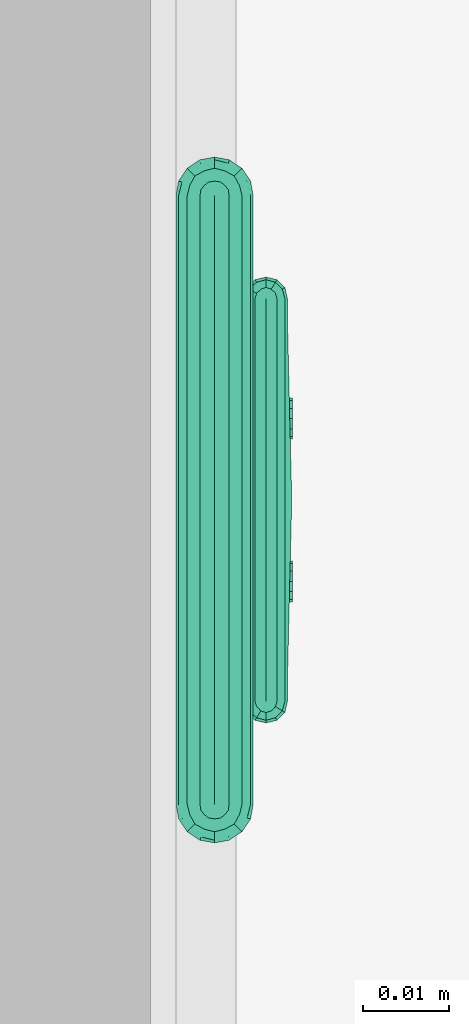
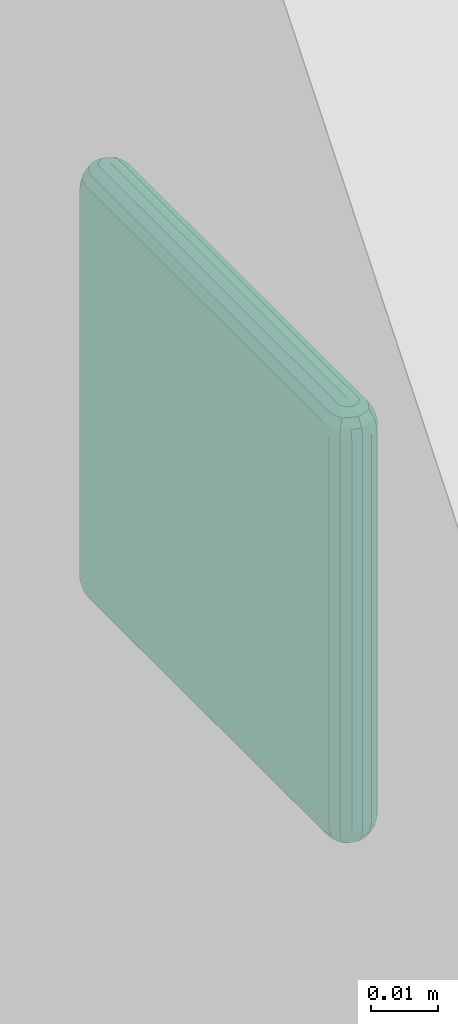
# One storey, part 7 of 11: 1 outlet.
"""IFC4 building model written with IfcOpenShell, lengths in millimetres."""

from ifc_helpers import new_model, si_unit, frame, origin_with_axes, place, context, subcontext, project, spatial, triangles, material, constituent, constituent_set, element, save


model = new_model("IFC4")

# Units and contexts
model_context = context("Model", 3, precision=0.01, world=origin_with_axes())
body_context = subcontext(model_context, "Body", "Model", "MODEL_VIEW")
ifc_project = project(units=[si_unit("LENGTHUNIT", "METRE", prefix="MILLI"), si_unit("AREAUNIT", "SQUARE_METRE"), si_unit("VOLUMEUNIT", "CUBIC_METRE"), si_unit("PLANEANGLEUNIT", "RADIAN")], contexts=[model_context])

# Site, building, storey
site_placement = place(None, origin_with_axes())
site = spatial("IfcSite", under=ifc_project, at=site_placement, Name="Участок", CompositionType="ELEMENT")
building_placement = place(site_placement, origin_with_axes())
building = spatial("IfcBuilding", under=site, at=building_placement, Name="Жилой дом", CompositionType="ELEMENT")
storey_placement = place(building_placement, origin_with_axes())
storey = spatial("IfcBuildingStorey", under=building, at=storey_placement, Name="Квартира ±0,000", CompositionType="ELEMENT", Elevation=0.0)

# Outlet
ifc_material_1 = material(Name="ЭУИ белые матовые (по кадру)")
ifc_constituent_1 = constituent(ifc_material_1)
ifc_material_2 = material(Name="Металл чёрный матовый RAL 9005")
ifc_constituent_2 = constituent(ifc_material_2)
ifc_constituent_set = constituent_set(constituents=[ifc_constituent_1, ifc_constituent_2], Name="ЭУИ белые матовые (по кадру) + Металл чёрный матовый RAL 9005")
outlet_placement = place(storey_placement, frame((3.0, 1985.0, 600.0)))
element("IfcOutlet", 1, at=outlet_placement, inside=storey, material=ifc_constituent_set, Name="Силовой вывод 32 А +600", PredefinedType="POWEROUTLET", context=body_context, shape_type="Tessellation", body=[
    triangles([(4.5, 75.5, 0.0), (4.5, 75.5, 0.0), (4.5, 75.5, 0.0), (4.5, 75.5, 0.0), (4.5, 75.5, 0.0), (4.5, 4.5, 0.0), (4.5, 4.5, 0.0), (4.5, 4.5, 0.0), (4.5, 4.5, 0.0), (4.5, 4.5, 0.0), (4.5, 4.5, 0.0), (4.5, 4.5, 0.0), (4.5, 4.5, 0.0), (4.5, 4.5, 0.0), (4.5, 4.5, 0.0), (4.5, 75.5, 0.0), (4.5, 75.5, 0.0), (4.5, 75.5, 0.0), (4.5, 75.5, 0.0), (4.5, 75.5, 0.0), (4.5, 77.2, 0.3), (5.2, 77.1, 0.3), (5.7, 76.7, 0.3), (6.1, 76.2, 0.3), (6.2, 75.5, 0.3), (6.2, 4.5, 0.3), (6.1, 3.8, 0.3), (5.7, 3.3, 0.3), (5.2, 2.9, 0.3), (4.5, 2.8, 0.3), (4.5, 2.8, 0.3), (3.8, 2.9, 0.3), (3.3, 3.3, 0.3), (2.9, 3.8, 0.3), (2.8, 4.5, 0.3), (2.8, 75.5, 0.3), (2.9, 76.2, 0.3), (3.3, 76.7, 0.3), (3.8, 77.1, 0.3), (4.5, 77.2, 0.3), (4.5, 78.7, 1.3), (5.7, 78.4, 1.3), (6.8, 77.8, 1.3), (7.4, 76.7, 1.3), (7.7, 75.5, 1.3), (7.7, 4.5, 1.3), (7.4, 3.3, 1.3), (6.8, 2.2, 1.3), (5.7, 1.6, 1.3), (4.5, 1.3, 1.3), (4.5, 1.3, 1.3), (3.3, 1.6, 1.3), (2.2, 2.2, 1.3), (1.6, 3.3, 1.3), (1.3, 4.5, 1.3), (1.3, 75.5, 1.3), (1.6, 76.7, 1.3), (2.2, 77.8, 1.3), (3.3, 78.4, 1.3), (4.5, 78.7, 1.3), (4.5, 79.7, 2.8), (6.1, 79.3, 2.8), (7.4, 78.4, 2.8), (8.3, 77.1, 2.8), (8.7, 75.5, 2.8), (8.7, 4.5, 2.8), (8.3, 2.9, 2.8), (7.4, 1.6, 2.8), (6.1, 0.7, 2.8), (4.5, 0.3, 2.8), (4.5, 0.3, 2.8), (2.9, 0.7, 2.8), (1.6, 1.6, 2.8), (0.7, 2.9, 2.8), (0.3, 4.5, 2.8), (0.3, 75.5, 2.8), (0.7, 77.1, 2.8), (1.6, 78.4, 2.8), (2.9, 79.3, 2.8), (4.5, 79.7, 2.8), (4.5, 80.0, 4.5), (6.2, 79.7, 4.5), (7.7, 78.7, 4.5), (8.7, 77.2, 4.5), (9.0, 75.5, 4.5), (9.0, 4.5, 4.5), (8.7, 2.8, 4.5), (7.7, 1.3, 4.5), (6.2, 0.3, 4.5), (4.5, 0.0, 4.5), (4.5, 0.0, 4.5), (2.8, 0.3, 4.5), (1.3, 1.3, 4.5), (0.3, 2.8, 4.5), (0.0, 4.5, 4.5), (0.0, 75.5, 4.5), (0.3, 77.2, 4.5), (1.3, 78.7, 4.5), (2.8, 79.7, 4.5), (4.5, 80.0, 4.5), (4.5, 80.0, 75.5), (6.2, 79.7, 75.5), (7.7, 78.7, 75.5), (8.7, 77.2, 75.5), (9.0, 75.5, 75.5), (9.0, 4.5, 75.5), (8.7, 2.8, 75.5), (7.7, 1.3, 75.5), (6.2, 0.3, 75.5), (4.5, 0.0, 75.5), (4.5, 0.0, 75.5), (2.8, 0.3, 75.5), (1.3, 1.3, 75.5), (0.3, 2.8, 75.5), (0.0, 4.5, 75.5), (0.0, 75.5, 75.5), (0.3, 77.2, 75.5), (1.3, 78.7, 75.5), (2.8, 79.7, 75.5), (4.5, 80.0, 75.5), (4.5, 79.7, 77.2), (6.1, 79.3, 77.2), (7.4, 78.4, 77.2), (8.3, 77.1, 77.2), (8.7, 75.5, 77.2), (8.7, 4.5, 77.2), (8.3, 2.9, 77.2), (7.4, 1.6, 77.2), (6.1, 0.7, 77.2), (4.5, 0.3, 77.2), (4.5, 0.3, 77.2), (2.9, 0.7, 77.2), (1.6, 1.6, 77.2), (0.7, 2.9, 77.2), (0.3, 4.5, 77.2), (0.3, 75.5, 77.2), (0.7, 77.1, 77.2), (1.6, 78.4, 77.2), (2.9, 79.3, 77.2), (4.5, 79.7, 77.2), (4.5, 78.7, 78.7), (5.7, 78.4, 78.7), (6.8, 77.8, 78.7), (7.4, 76.7, 78.7), (7.7, 75.5, 78.7), (7.7, 4.5, 78.7), (7.4, 3.3, 78.7), (6.8, 2.2, 78.7), (5.7, 1.6, 78.7), (4.5, 1.3, 78.7), (4.5, 1.3, 78.7), (3.3, 1.6, 78.7), (2.2, 2.2, 78.7), (1.6, 3.3, 78.7), (1.3, 4.5, 78.7), (1.3, 75.5, 78.7), (1.6, 76.7, 78.7), (2.2, 77.8, 78.7), (3.3, 78.4, 78.7), (4.5, 78.7, 78.7), (4.5, 77.2, 79.7), (5.2, 77.1, 79.7), (5.7, 76.7, 79.7), (6.1, 76.2, 79.7), (6.2, 75.5, 79.7), (6.2, 4.5, 79.7), (6.1, 3.8, 79.7), (5.7, 3.3, 79.7), (5.2, 2.9, 79.7), (4.5, 2.8, 79.7), (4.5, 2.8, 79.7), (3.8, 2.9, 79.7), (3.3, 3.3, 79.7), (2.9, 3.8, 79.7), (2.8, 4.5, 79.7), (2.8, 75.5, 79.7), (2.9, 76.2, 79.7), (3.3, 76.7, 79.7), (3.8, 77.1, 79.7), (4.5, 77.2, 79.7), (4.5, 75.5, 80.0), (4.5, 75.5, 80.0), (4.5, 75.5, 80.0), (4.5, 75.5, 80.0), (4.5, 75.5, 80.0), (4.5, 4.5, 80.0), (4.5, 4.5, 80.0), (4.5, 4.5, 80.0), (4.5, 4.5, 80.0), (4.5, 4.5, 80.0), (4.5, 4.5, 80.0), (4.5, 4.5, 80.0), (4.5, 4.5, 80.0), (4.5, 4.5, 80.0), (4.5, 4.5, 80.0), (4.5, 75.5, 80.0), (4.5, 75.5, 80.0), (4.5, 75.5, 80.0), (4.5, 75.5, 80.0), (4.5, 75.5, 80.0), (10.5, 63.5, 14.0), (10.5, 63.5, 14.0), (10.5, 63.5, 14.0), (10.5, 63.5, 14.0), (10.5, 16.5, 14.0), (10.5, 16.5, 14.0), (10.5, 16.5, 14.0), (10.5, 16.5, 14.0), (10.5, 16.5, 14.0), (10.5, 16.5, 14.0), (10.5, 16.5, 14.0), (10.5, 16.5, 14.0), (10.5, 63.5, 14.0), (10.5, 63.5, 14.0), (10.5, 63.5, 14.0), (10.5, 63.5, 14.0), (10.5, 64.8, 14.3), (11.1, 64.6, 14.3), (11.6, 64.1, 14.3), (11.8, 63.5, 14.3), (11.8, 16.5, 14.3), (11.6, 15.9, 14.3), (11.1, 15.4, 14.3), (10.5, 15.2, 14.3), (10.5, 15.2, 14.3), (9.9, 15.4, 14.3), (9.4, 15.9, 14.3), (9.2, 16.5, 14.3), (9.2, 63.5, 14.3), (9.4, 64.1, 14.3), (9.9, 64.6, 14.3), (10.5, 64.8, 14.3), (10.5, 65.7, 15.2), (11.6, 65.4, 15.2), (12.4, 64.6, 15.2), (12.7, 63.5, 15.2), (12.7, 16.5, 15.2), (12.4, 15.4, 15.2), (11.6, 14.6, 15.2), (10.5, 14.3, 15.2), (10.5, 14.3, 15.2), (9.4, 14.6, 15.2), (8.6, 15.4, 15.2), (8.3, 16.5, 15.2), (8.3, 63.5, 15.2), (8.6, 64.6, 15.2), (9.4, 65.4, 15.2), (10.5, 65.7, 15.2), (10.5, 66.0, 16.5), (11.8, 65.7, 16.5), (12.7, 64.8, 16.5), (13.0, 63.5, 16.5), (13.0, 16.5, 16.5), (12.7, 15.2, 16.5), (11.8, 14.3, 16.5), (10.5, 14.0, 16.5), (10.5, 14.0, 16.5), (9.2, 14.3, 16.5), (8.3, 15.2, 16.5), (8.0, 16.5, 16.5), (8.0, 63.5, 16.5), (8.3, 64.8, 16.5), (9.2, 65.7, 16.5), (10.5, 66.0, 16.5), (10.5, 66.0, 63.5), (11.8, 65.7, 63.5), (12.7, 64.8, 63.5), (13.0, 63.5, 63.5), (13.0, 16.5, 63.5), (12.7, 15.2, 63.5), (11.8, 14.3, 63.5), (10.5, 14.0, 63.5), (10.5, 14.0, 63.5), (9.2, 14.3, 63.5), (8.3, 15.2, 63.5), (8.0, 16.5, 63.5), (8.0, 63.5, 63.5), (8.3, 64.8, 63.5), (9.2, 65.7, 63.5), (10.5, 66.0, 63.5), (10.5, 65.7, 64.8), (11.6, 65.4, 64.8), (12.4, 64.6, 64.8), (12.7, 63.5, 64.8), (12.7, 16.5, 64.8), (12.4, 15.4, 64.8), (11.6, 14.6, 64.8), (10.5, 14.3, 64.8), (10.5, 14.3, 64.8), (9.4, 14.6, 64.8), (8.6, 15.4, 64.8), (8.3, 16.5, 64.8), (8.3, 63.5, 64.8), (8.6, 64.6, 64.8), (9.4, 65.4, 64.8), (10.5, 65.7, 64.8), (10.5, 64.8, 65.7), (11.1, 64.6, 65.7), (11.6, 64.1, 65.7), (11.8, 63.5, 65.7), (11.8, 16.5, 65.7), (11.6, 15.9, 65.7), (11.1, 15.4, 65.7), (10.5, 15.2, 65.7), (10.5, 15.2, 65.7), (9.9, 15.4, 65.7), (9.4, 15.9, 65.7), (9.2, 16.5, 65.7), (9.2, 63.5, 65.7), (9.4, 64.1, 65.7), (9.9, 64.6, 65.7), (10.5, 64.8, 65.7), (10.5, 63.5, 66.0), (10.5, 63.5, 66.0), (10.5, 63.5, 66.0), (10.5, 63.5, 66.0), (10.5, 16.5, 66.0), (10.5, 16.5, 66.0), (10.5, 16.5, 66.0), (10.5, 16.5, 66.0), (10.5, 16.5, 66.0), (10.5, 16.5, 66.0), (10.5, 16.5, 66.0), (10.5, 16.5, 66.0), (10.5, 63.5, 66.0), (10.5, 63.5, 66.0), (10.5, 63.5, 66.0), (10.5, 63.5, 66.0)], [[1, 2, 22], [1, 22, 21], [2, 3, 23], [2, 23, 22], [3, 4, 24], [3, 24, 23], [4, 5, 25], [4, 25, 24], [5, 6, 26], [5, 26, 25], [6, 7, 27], [6, 27, 26], [7, 8, 28], [7, 28, 27], [8, 9, 29], [8, 29, 28], [9, 10, 30], [9, 30, 29], [10, 11, 31], [10, 31, 30], [11, 12, 32], [11, 32, 31], [12, 13, 33], [12, 33, 32], [13, 14, 34], [13, 34, 33], [14, 15, 35], [14, 35, 34], [15, 16, 36], [15, 36, 35], [16, 17, 37], [16, 37, 36], [17, 18, 38], [17, 38, 37], [18, 19, 39], [18, 39, 38], [19, 20, 40], [19, 40, 39], [20, 1, 21], [20, 21, 40], [21, 22, 42], [21, 42, 41], [22, 23, 43], [22, 43, 42], [23, 24, 44], [23, 44, 43], [24, 25, 45], [24, 45, 44], [25, 26, 46], [25, 46, 45], [26, 27, 47], [26, 47, 46], [27, 28, 48], [27, 48, 47], [28, 29, 49], [28, 49, 48], [29, 30, 50], [29, 50, 49], [30, 31, 51], [30, 51, 50], [31, 32, 52], [31, 52, 51], [32, 33, 53], [32, 53, 52], [33, 34, 54], [33, 54, 53], [34, 35, 55], [34, 55, 54], [35, 36, 56], [35, 56, 55], [36, 37, 57], [36, 57, 56], [37, 38, 58], [37, 58, 57], [38, 39, 59], [38, 59, 58], [39, 40, 60], [39, 60, 59], [40, 21, 41], [40, 41, 60], [41, 42, 62], [41, 62, 61], [42, 43, 63], [42, 63, 62], [43, 44, 64], [43, 64, 63], [44, 45, 65], [44, 65, 64], [45, 46, 66], [45, 66, 65], [46, 47, 67], [46, 67, 66], [47, 48, 68], [47, 68, 67], [48, 49, 69], [48, 69, 68], [49, 50, 70], [49, 70, 69], [50, 51, 71], [50, 71, 70], [51, 52, 72], [51, 72, 71], [52, 53, 73], [52, 73, 72], [53, 54, 74], [53, 74, 73], [54, 55, 75], [54, 75, 74], [55, 56, 76], [55, 76, 75], [56, 57, 77], [56, 77, 76], [57, 58, 78], [57, 78, 77], [58, 59, 79], [58, 79, 78], [59, 60, 80], [59, 80, 79], [60, 41, 61], [60, 61, 80], [61, 62, 82], [61, 82, 81], [62, 63, 83], [62, 83, 82], [63, 64, 84], [63, 84, 83], [64, 65, 85], [64, 85, 84], [65, 66, 86], [65, 86, 85], [66, 67, 87], [66, 87, 86], [67, 68, 88], [67, 88, 87], [68, 69, 89], [68, 89, 88], [69, 70, 90], [69, 90, 89], [70, 71, 91], [70, 91, 90], [71, 72, 92], [71, 92, 91], [72, 73, 93], [72, 93, 92], [73, 74, 94], [73, 94, 93], [74, 75, 95], [74, 95, 94], [75, 76, 96], [75, 96, 95], [76, 77, 97], [76, 97, 96], [77, 78, 98], [77, 98, 97], [78, 79, 99], [78, 99, 98], [79, 80, 100], [79, 100, 99], [80, 61, 81], [80, 81, 100], [81, 82, 102], [81, 102, 101], [82, 83, 103], [82, 103, 102], [83, 84, 104], [83, 104, 103], [84, 85, 105], [84, 105, 104], [85, 86, 106], [85, 106, 105], [86, 87, 107], [86, 107, 106], [87, 88, 108], [87, 108, 107], [88, 89, 109], [88, 109, 108], [89, 90, 110], [89, 110, 109], [90, 91, 111], [90, 111, 110], [91, 92, 112], [91, 112, 111], [92, 93, 113], [92, 113, 112], [93, 94, 114], [93, 114, 113], [94, 95, 115], [94, 115, 114], [95, 96, 116], [95, 116, 115], [96, 97, 117], [96, 117, 116], [97, 98, 118], [97, 118, 117], [98, 99, 119], [98, 119, 118], [99, 100, 120], [99, 120, 119], [100, 81, 101], [100, 101, 120], [101, 102, 122], [101, 122, 121], [102, 103, 123], [102, 123, 122], [103, 104, 124], [103, 124, 123], [104, 105, 125], [104, 125, 124], [105, 106, 126], [105, 126, 125], [106, 107, 127], [106, 127, 126], [107, 108, 128], [107, 128, 127], [108, 109, 129], [108, 129, 128], [109, 110, 130], [109, 130, 129], [110, 111, 131], [110, 131, 130], [111, 112, 132], [111, 132, 131], [112, 113, 133], [112, 133, 132], [113, 114, 134], [113, 134, 133], [114, 115, 135], [114, 135, 134], [115, 116, 136], [115, 136, 135], [116, 117, 137], [116, 137, 136], [117, 118, 138], [117, 138, 137], [118, 119, 139], [118, 139, 138], [119, 120, 140], [119, 140, 139], [120, 101, 121], [120, 121, 140], [121, 122, 142], [121, 142, 141], [122, 123, 143], [122, 143, 142], [123, 124, 144], [123, 144, 143], [124, 125, 145], [124, 145, 144], [125, 126, 146], [125, 146, 145], [126, 127, 147], [126, 147, 146], [127, 128, 148], [127, 148, 147], [128, 129, 149], [128, 149, 148], [129, 130, 150], [129, 150, 149], [130, 131, 151], [130, 151, 150], [131, 132, 152], [131, 152, 151], [132, 133, 153], [132, 153, 152], [133, 134, 154], [133, 154, 153], [134, 135, 155], [134, 155, 154], [135, 136, 156], [135, 156, 155], [136, 137, 157], [136, 157, 156], [137, 138, 158], [137, 158, 157], [138, 139, 159], [138, 159, 158], [139, 140, 160], [139, 160, 159], [140, 121, 141], [140, 141, 160], [141, 142, 162], [141, 162, 161], [142, 143, 163], [142, 163, 162], [143, 144, 164], [143, 164, 163], [144, 145, 165], [144, 165, 164], [145, 146, 166], [145, 166, 165], [146, 147, 167], [146, 167, 166], [147, 148, 168], [147, 168, 167], [148, 149, 169], [148, 169, 168], [149, 150, 170], [149, 170, 169], [150, 151, 171], [150, 171, 170], [151, 152, 172], [151, 172, 171], [152, 153, 173], [152, 173, 172], [153, 154, 174], [153, 174, 173], [154, 155, 175], [154, 175, 174], [155, 156, 176], [155, 176, 175], [156, 157, 177], [156, 177, 176], [157, 158, 178], [157, 178, 177], [158, 159, 179], [158, 179, 178], [159, 160, 180], [159, 180, 179], [160, 141, 161], [160, 161, 180], [161, 162, 182], [161, 182, 181], [162, 163, 183], [162, 183, 182], [163, 164, 184], [163, 184, 183], [164, 165, 185], [164, 185, 184], [165, 166, 186], [165, 186, 185], [166, 167, 187], [166, 187, 186], [167, 168, 188], [167, 188, 187], [168, 169, 189], [168, 189, 188], [169, 170, 190], [169, 190, 189], [170, 171, 191], [170, 191, 190], [171, 172, 192], [171, 192, 191], [172, 173, 193], [172, 193, 192], [173, 174, 194], [173, 194, 193], [174, 175, 195], [174, 195, 194], [175, 176, 196], [175, 196, 195], [176, 177, 197], [176, 197, 196], [177, 178, 198], [177, 198, 197], [178, 179, 199], [178, 199, 198], [179, 180, 200], [179, 200, 199], [180, 161, 181], [180, 181, 200], [201, 202, 218], [201, 218, 217], [202, 203, 219], [202, 219, 218], [203, 204, 220], [203, 220, 219], [204, 205, 221], [204, 221, 220], [205, 206, 222], [205, 222, 221], [206, 207, 223], [206, 223, 222], [207, 208, 224], [207, 224, 223], [208, 209, 225], [208, 225, 224], [209, 210, 226], [209, 226, 225], [210, 211, 227], [210, 227, 226], [211, 212, 228], [211, 228, 227], [212, 213, 229], [212, 229, 228], [213, 214, 230], [213, 230, 229], [214, 215, 231], [214, 231, 230], [215, 216, 232], [215, 232, 231], [216, 201, 217], [216, 217, 232], [217, 218, 234], [217, 234, 233], [218, 219, 235], [218, 235, 234], [219, 220, 236], [219, 236, 235], [220, 221, 237], [220, 237, 236], [221, 222, 238], [221, 238, 237], [222, 223, 239], [222, 239, 238], [223, 224, 240], [223, 240, 239], [224, 225, 241], [224, 241, 240], [225, 226, 242], [225, 242, 241], [226, 227, 243], [226, 243, 242], [227, 228, 244], [227, 244, 243], [228, 229, 245], [228, 245, 244], [229, 230, 246], [229, 246, 245], [230, 231, 247], [230, 247, 246], [231, 232, 248], [231, 248, 247], [232, 217, 233], [232, 233, 248], [233, 234, 250], [233, 250, 249], [234, 235, 251], [234, 251, 250], [235, 236, 252], [235, 252, 251], [236, 237, 253], [236, 253, 252], [237, 238, 254], [237, 254, 253], [238, 239, 255], [238, 255, 254], [239, 240, 256], [239, 256, 255], [240, 241, 257], [240, 257, 256], [241, 242, 258], [241, 258, 257], [242, 243, 259], [242, 259, 258], [243, 244, 260], [243, 260, 259], [244, 245, 261], [244, 261, 260], [245, 246, 262], [245, 262, 261], [246, 247, 263], [246, 263, 262], [247, 248, 264], [247, 264, 263], [248, 233, 249], [248, 249, 264], [249, 250, 266], [249, 266, 265], [250, 251, 267], [250, 267, 266], [251, 252, 268], [251, 268, 267], [252, 253, 269], [252, 269, 268], [253, 254, 270], [253, 270, 269], [254, 255, 271], [254, 271, 270], [255, 256, 272], [255, 272, 271], [256, 257, 273], [256, 273, 272], [257, 258, 274], [257, 274, 273], [258, 259, 275], [258, 275, 274], [259, 260, 276], [259, 276, 275], [260, 261, 277], [260, 277, 276], [261, 262, 278], [261, 278, 277], [262, 263, 279], [262, 279, 278], [263, 264, 280], [263, 280, 279], [264, 249, 265], [264, 265, 280], [265, 266, 282], [265, 282, 281], [266, 267, 283], [266, 283, 282], [267, 268, 284], [267, 284, 283], [268, 269, 285], [268, 285, 284], [269, 270, 286], [269, 286, 285], [270, 271, 287], [270, 287, 286], [271, 272, 288], [271, 288, 287], [272, 273, 289], [272, 289, 288], [273, 274, 290], [273, 290, 289], [274, 275, 291], [274, 291, 290], [275, 276, 292], [275, 292, 291], [276, 277, 293], [276, 293, 292], [277, 278, 294], [277, 294, 293], [278, 279, 295], [278, 295, 294], [279, 280, 296], [279, 296, 295], [280, 265, 281], [280, 281, 296], [281, 282, 298], [281, 298, 297], [282, 283, 299], [282, 299, 298], [283, 284, 300], [283, 300, 299], [284, 285, 301], [284, 301, 300], [285, 286, 302], [285, 302, 301], [286, 287, 303], [286, 303, 302], [287, 288, 304], [287, 304, 303], [288, 289, 305], [288, 305, 304], [289, 290, 306], [289, 306, 305], [290, 291, 307], [290, 307, 306], [291, 292, 308], [291, 308, 307], [292, 293, 309], [292, 309, 308], [293, 294, 310], [293, 310, 309], [294, 295, 311], [294, 311, 310], [295, 296, 312], [295, 312, 311], [296, 281, 297], [296, 297, 312], [297, 298, 314], [297, 314, 313], [298, 299, 315], [298, 315, 314], [299, 300, 316], [299, 316, 315], [300, 301, 317], [300, 317, 316], [301, 302, 318], [301, 318, 317], [302, 303, 319], [302, 319, 318], [303, 304, 320], [303, 320, 319], [304, 305, 321], [304, 321, 320], [305, 306, 322], [305, 322, 321], [306, 307, 323], [306, 323, 322], [307, 308, 324], [307, 324, 323], [308, 309, 325], [308, 325, 324], [309, 310, 326], [309, 326, 325], [310, 311, 327], [310, 327, 326], [311, 312, 328], [311, 328, 327], [312, 297, 313], [312, 313, 328]]),
    triangles([(4.0, 40.0, 40.0), (4.0, 40.0, 40.0), (4.0, 40.0, 40.0), (4.0, 40.0, 40.0), (4.0, 40.0, 40.0), (4.0, 40.0, 40.0), (4.0, 40.0, 40.0), (4.0, 40.0, 40.0), (4.0, 40.0, 40.0), (4.0, 40.0, 40.0), (4.0, 40.0, 40.0), (4.0, 40.0, 40.0), (4.0, 40.0, 40.0), (4.0, 40.0, 40.0), (4.0, 40.0, 40.0), (4.0, 40.0, 40.0), (4.0, 40.0, 40.0), (4.0, 40.0, 40.0), (4.0, 40.0, 40.0), (4.0, 40.0, 40.0), (4.0, 40.0, 40.0), (4.0, 40.0, 40.0), (4.0, 40.0, 40.0), (4.0, 40.0, 40.0), (4.0, 40.0, 40.0), (4.0, 40.0, 40.0), (4.0, 40.0, 40.0), (4.0, 40.0, 40.0), (4.0, 40.0, 40.0), (4.0, 40.0, 40.0), (4.0, 40.0, 40.0), (4.0, 40.0, 40.0), (4.0, 59.0, 40.0), (4.0, 58.6, 43.7), (4.0, 57.6, 47.3), (4.0, 55.8, 50.6), (4.0, 53.4, 53.4), (4.0, 50.6, 55.8), (4.0, 47.3, 57.6), (4.0, 43.7, 58.6), (4.0, 40.0, 59.0), (4.0, 36.3, 58.6), (4.0, 32.7, 57.6), (4.0, 29.4, 55.8), (4.0, 26.6, 53.4), (4.0, 24.2, 50.6), (4.0, 22.4, 47.3), (4.0, 21.4, 43.7), (4.0, 21.0, 40.0), (4.0, 21.4, 36.3), (4.0, 22.4, 32.7), (4.0, 24.2, 29.4), (4.0, 26.6, 26.6), (4.0, 29.4, 24.2), (4.0, 32.7, 22.4), (4.0, 36.3, 21.4), (4.0, 40.0, 21.0), (4.0, 43.7, 21.4), (4.0, 47.3, 22.4), (4.0, 50.6, 24.2), (4.0, 53.4, 26.6), (4.0, 55.8, 29.4), (4.0, 57.6, 32.7), (4.0, 58.6, 36.3), (12.0, 59.0, 40.0), (12.0, 58.6, 43.7), (12.0, 57.6, 47.3), (12.0, 55.8, 50.6), (12.0, 53.4, 53.4), (12.0, 50.6, 55.8), (12.0, 47.3, 57.6), (12.0, 43.7, 58.6), (12.0, 40.0, 59.0), (12.0, 36.3, 58.6), (12.0, 32.7, 57.6), (12.0, 29.4, 55.8), (12.0, 26.6, 53.4), (12.0, 24.2, 50.6), (12.0, 22.4, 47.3), (12.0, 21.4, 43.7), (12.0, 21.0, 40.0), (12.0, 21.4, 36.3), (12.0, 22.4, 32.7), (12.0, 24.2, 29.4), (12.0, 26.6, 26.6), (12.0, 29.4, 24.2), (12.0, 32.7, 22.4), (12.0, 36.3, 21.4), (12.0, 40.0, 21.0), (12.0, 43.7, 21.4), (12.0, 47.3, 22.4), (12.0, 50.6, 24.2), (12.0, 53.4, 26.6), (12.0, 55.8, 29.4), (12.0, 57.6, 32.7), (12.0, 58.6, 36.3), (13.0, 61.0, 40.0), (13.0, 60.6, 44.1), (13.0, 59.4, 48.0), (13.0, 57.5, 51.7), (13.0, 54.8, 54.8), (13.0, 51.7, 57.5), (13.0, 48.0, 59.4), (13.0, 44.1, 60.6), (13.0, 40.0, 61.0), (13.0, 35.9, 60.6), (13.0, 32.0, 59.4), (13.0, 28.3, 57.5), (13.0, 25.2, 54.8), (13.0, 22.5, 51.7), (13.0, 20.6, 48.0), (13.0, 19.4, 44.1), (13.0, 19.0, 40.0), (13.0, 19.4, 35.9), (13.0, 20.6, 32.0), (13.0, 22.5, 28.3), (13.0, 25.2, 25.2), (13.0, 28.3, 22.5), (13.0, 32.0, 20.6), (13.0, 35.9, 19.4), (13.0, 40.0, 19.0), (13.0, 44.1, 19.4), (13.0, 48.0, 20.6), (13.0, 51.7, 22.5), (13.0, 54.8, 25.2), (13.0, 57.5, 28.3), (13.0, 59.4, 32.0), (13.0, 60.6, 35.9), (13.5, 40.0, 40.0), (13.5, 40.0, 40.0), (13.5, 40.0, 40.0), (13.5, 40.0, 40.0), (13.5, 40.0, 40.0), (13.5, 40.0, 40.0), (13.5, 40.0, 40.0), (13.5, 40.0, 40.0), (13.5, 40.0, 40.0), (13.5, 40.0, 40.0), (13.5, 40.0, 40.0), (13.5, 40.0, 40.0), (13.5, 40.0, 40.0), (13.5, 40.0, 40.0), (13.5, 40.0, 40.0), (13.5, 40.0, 40.0), (13.5, 40.0, 40.0), (13.5, 40.0, 40.0), (13.5, 40.0, 40.0), (13.5, 40.0, 40.0), (13.5, 40.0, 40.0), (13.5, 40.0, 40.0), (13.5, 40.0, 40.0), (13.5, 40.0, 40.0), (13.5, 40.0, 40.0), (13.5, 40.0, 40.0), (13.5, 40.0, 40.0), (13.5, 40.0, 40.0), (13.5, 40.0, 40.0), (13.5, 40.0, 40.0), (13.5, 40.0, 40.0), (13.5, 40.0, 40.0), (7.0, 30.5, 40.0), (7.0, 30.5, 40.0), (7.0, 30.5, 40.0), (7.0, 30.5, 40.0), (7.0, 30.5, 40.0), (7.0, 30.5, 40.0), (7.0, 30.5, 40.0), (7.0, 30.5, 40.0), (7.0, 30.5, 40.0), (7.0, 30.5, 40.0), (7.0, 30.5, 40.0), (7.0, 30.5, 40.0), (7.0, 32.9, 40.0), (7.0, 32.6, 41.2), (7.0, 31.7, 42.1), (7.0, 30.5, 42.4), (7.0, 29.3, 42.1), (7.0, 28.4, 41.2), (7.0, 28.1, 40.0), (7.0, 28.4, 38.8), (7.0, 29.3, 37.9), (7.0, 30.5, 37.6), (7.0, 31.7, 37.9), (7.0, 32.6, 38.8), (13.6, 32.9, 40.0), (13.6, 32.6, 41.2), (13.6, 31.7, 42.1), (13.6, 30.5, 42.4), (13.6, 29.3, 42.1), (13.6, 28.4, 41.2), (13.6, 28.1, 40.0), (13.6, 28.4, 38.8), (13.6, 29.3, 37.9), (13.6, 30.5, 37.6), (13.6, 31.7, 37.9), (13.6, 32.6, 38.8), (13.6, 30.5, 40.0), (13.6, 30.5, 40.0), (13.6, 30.5, 40.0), (13.6, 30.5, 40.0), (13.6, 30.5, 40.0), (13.6, 30.5, 40.0), (13.6, 30.5, 40.0), (13.6, 30.5, 40.0), (13.6, 30.5, 40.0), (13.6, 30.5, 40.0), (13.6, 30.5, 40.0), (13.6, 30.5, 40.0), (7.0, 49.5, 40.0), (7.0, 49.5, 40.0), (7.0, 49.5, 40.0), (7.0, 49.5, 40.0), (7.0, 49.5, 40.0), (7.0, 49.5, 40.0), (7.0, 49.5, 40.0), (7.0, 49.5, 40.0), (7.0, 49.5, 40.0), (7.0, 49.5, 40.0), (7.0, 49.5, 40.0), (7.0, 49.5, 40.0), (7.0, 51.9, 40.0), (7.0, 51.6, 41.2), (7.0, 50.7, 42.1), (7.0, 49.5, 42.4), (7.0, 48.3, 42.1), (7.0, 47.4, 41.2), (7.0, 47.1, 40.0), (7.0, 47.4, 38.8), (7.0, 48.3, 37.9), (7.0, 49.5, 37.6), (7.0, 50.7, 37.9), (7.0, 51.6, 38.8), (13.6, 51.9, 40.0), (13.6, 51.6, 41.2), (13.6, 50.7, 42.1), (13.6, 49.5, 42.4), (13.6, 48.3, 42.1), (13.6, 47.4, 41.2), (13.6, 47.1, 40.0), (13.6, 47.4, 38.8), (13.6, 48.3, 37.9), (13.6, 49.5, 37.6), (13.6, 50.7, 37.9), (13.6, 51.6, 38.8), (13.6, 49.5, 40.0), (13.6, 49.5, 40.0), (13.6, 49.5, 40.0), (13.6, 49.5, 40.0), (13.6, 49.5, 40.0), (13.6, 49.5, 40.0), (13.6, 49.5, 40.0), (13.6, 49.5, 40.0), (13.6, 49.5, 40.0), (13.6, 49.5, 40.0), (13.6, 49.5, 40.0), (13.6, 49.5, 40.0)], [[1, 2, 34], [1, 34, 33], [2, 3, 35], [2, 35, 34], [3, 4, 36], [3, 36, 35], [4, 5, 37], [4, 37, 36], [5, 6, 38], [5, 38, 37], [6, 7, 39], [6, 39, 38], [7, 8, 40], [7, 40, 39], [8, 9, 41], [8, 41, 40], [9, 10, 42], [9, 42, 41], [10, 11, 43], [10, 43, 42], [11, 12, 44], [11, 44, 43], [12, 13, 45], [12, 45, 44], [13, 14, 46], [13, 46, 45], [14, 15, 47], [14, 47, 46], [15, 16, 48], [15, 48, 47], [16, 17, 49], [16, 49, 48], [17, 18, 50], [17, 50, 49], [18, 19, 51], [18, 51, 50], [19, 20, 52], [19, 52, 51], [20, 21, 53], [20, 53, 52], [21, 22, 54], [21, 54, 53], [22, 23, 55], [22, 55, 54], [23, 24, 56], [23, 56, 55], [24, 25, 57], [24, 57, 56], [25, 26, 58], [25, 58, 57], [26, 27, 59], [26, 59, 58], [27, 28, 60], [27, 60, 59], [28, 29, 61], [28, 61, 60], [29, 30, 62], [29, 62, 61], [30, 31, 63], [30, 63, 62], [31, 32, 64], [31, 64, 63], [32, 1, 33], [32, 33, 64], [33, 34, 66], [33, 66, 65], [34, 35, 67], [34, 67, 66], [35, 36, 68], [35, 68, 67], [36, 37, 69], [36, 69, 68], [37, 38, 70], [37, 70, 69], [38, 39, 71], [38, 71, 70], [39, 40, 72], [39, 72, 71], [40, 41, 73], [40, 73, 72], [41, 42, 74], [41, 74, 73], [42, 43, 75], [42, 75, 74], [43, 44, 76], [43, 76, 75], [44, 45, 77], [44, 77, 76], [45, 46, 78], [45, 78, 77], [46, 47, 79], [46, 79, 78], [47, 48, 80], [47, 80, 79], [48, 49, 81], [48, 81, 80], [49, 50, 82], [49, 82, 81], [50, 51, 83], [50, 83, 82], [51, 52, 84], [51, 84, 83], [52, 53, 85], [52, 85, 84], [53, 54, 86], [53, 86, 85], [54, 55, 87], [54, 87, 86], [55, 56, 88], [55, 88, 87], [56, 57, 89], [56, 89, 88], [57, 58, 90], [57, 90, 89], [58, 59, 91], [58, 91, 90], [59, 60, 92], [59, 92, 91], [60, 61, 93], [60, 93, 92], [61, 62, 94], [61, 94, 93], [62, 63, 95], [62, 95, 94], [63, 64, 96], [63, 96, 95], [64, 33, 65], [64, 65, 96], [65, 66, 98], [65, 98, 97], [66, 67, 99], [66, 99, 98], [67, 68, 100], [67, 100, 99], [68, 69, 101], [68, 101, 100], [69, 70, 102], [69, 102, 101], [70, 71, 103], [70, 103, 102], [71, 72, 104], [71, 104, 103], [72, 73, 105], [72, 105, 104], [73, 74, 106], [73, 106, 105], [74, 75, 107], [74, 107, 106], [75, 76, 108], [75, 108, 107], [76, 77, 109], [76, 109, 108], [77, 78, 110], [77, 110, 109], [78, 79, 111], [78, 111, 110], [79, 80, 112], [79, 112, 111], [80, 81, 113], [80, 113, 112], [81, 82, 114], [81, 114, 113], [82, 83, 115], [82, 115, 114], [83, 84, 116], [83, 116, 115], [84, 85, 117], [84, 117, 116], [85, 86, 118], [85, 118, 117], [86, 87, 119], [86, 119, 118], [87, 88, 120], [87, 120, 119], [88, 89, 121], [88, 121, 120], [89, 90, 122], [89, 122, 121], [90, 91, 123], [90, 123, 122], [91, 92, 124], [91, 124, 123], [92, 93, 125], [92, 125, 124], [93, 94, 126], [93, 126, 125], [94, 95, 127], [94, 127, 126], [95, 96, 128], [95, 128, 127], [96, 65, 97], [96, 97, 128], [97, 98, 130], [97, 130, 129], [98, 99, 131], [98, 131, 130], [99, 100, 132], [99, 132, 131], [100, 101, 133], [100, 133, 132], [101, 102, 134], [101, 134, 133], [102, 103, 135], [102, 135, 134], [103, 104, 136], [103, 136, 135], [104, 105, 137], [104, 137, 136], [105, 106, 138], [105, 138, 137], [106, 107, 139], [106, 139, 138], [107, 108, 140], [107, 140, 139], [108, 109, 141], [108, 141, 140], [109, 110, 142], [109, 142, 141], [110, 111, 143], [110, 143, 142], [111, 112, 144], [111, 144, 143], [112, 113, 145], [112, 145, 144], [113, 114, 146], [113, 146, 145], [114, 115, 147], [114, 147, 146], [115, 116, 148], [115, 148, 147], [116, 117, 149], [116, 149, 148], [117, 118, 150], [117, 150, 149], [118, 119, 151], [118, 151, 150], [119, 120, 152], [119, 152, 151], [120, 121, 153], [120, 153, 152], [121, 122, 154], [121, 154, 153], [122, 123, 155], [122, 155, 154], [123, 124, 156], [123, 156, 155], [124, 125, 157], [124, 157, 156], [125, 126, 158], [125, 158, 157], [126, 127, 159], [126, 159, 158], [127, 128, 160], [127, 160, 159], [128, 97, 129], [128, 129, 160], [161, 162, 174], [161, 174, 173], [162, 163, 175], [162, 175, 174], [163, 164, 176], [163, 176, 175], [164, 165, 177], [164, 177, 176], [165, 166, 178], [165, 178, 177], [166, 167, 179], [166, 179, 178], [167, 168, 180], [167, 180, 179], [168, 169, 181], [168, 181, 180], [169, 170, 182], [169, 182, 181], [170, 171, 183], [170, 183, 182], [171, 172, 184], [171, 184, 183], [172, 161, 173], [172, 173, 184], [173, 174, 186], [173, 186, 185], [174, 175, 187], [174, 187, 186], [175, 176, 188], [175, 188, 187], [176, 177, 189], [176, 189, 188], [177, 178, 190], [177, 190, 189], [178, 179, 191], [178, 191, 190], [179, 180, 192], [179, 192, 191], [180, 181, 193], [180, 193, 192], [181, 182, 194], [181, 194, 193], [182, 183, 195], [182, 195, 194], [183, 184, 196], [183, 196, 195], [184, 173, 185], [184, 185, 196], [185, 186, 198], [185, 198, 197], [186, 187, 199], [186, 199, 198], [187, 188, 200], [187, 200, 199], [188, 189, 201], [188, 201, 200], [189, 190, 202], [189, 202, 201], [190, 191, 203], [190, 203, 202], [191, 192, 204], [191, 204, 203], [192, 193, 205], [192, 205, 204], [193, 194, 206], [193, 206, 205], [194, 195, 207], [194, 207, 206], [195, 196, 208], [195, 208, 207], [196, 185, 197], [196, 197, 208], [209, 210, 222], [209, 222, 221], [210, 211, 223], [210, 223, 222], [211, 212, 224], [211, 224, 223], [212, 213, 225], [212, 225, 224], [213, 214, 226], [213, 226, 225], [214, 215, 227], [214, 227, 226], [215, 216, 228], [215, 228, 227], [216, 217, 229], [216, 229, 228], [217, 218, 230], [217, 230, 229], [218, 219, 231], [218, 231, 230], [219, 220, 232], [219, 232, 231], [220, 209, 221], [220, 221, 232], [221, 222, 234], [221, 234, 233], [222, 223, 235], [222, 235, 234], [223, 224, 236], [223, 236, 235], [224, 225, 237], [224, 237, 236], [225, 226, 238], [225, 238, 237], [226, 227, 239], [226, 239, 238], [227, 228, 240], [227, 240, 239], [228, 229, 241], [228, 241, 240], [229, 230, 242], [229, 242, 241], [230, 231, 243], [230, 243, 242], [231, 232, 244], [231, 244, 243], [232, 221, 233], [232, 233, 244], [233, 234, 246], [233, 246, 245], [234, 235, 247], [234, 247, 246], [235, 236, 248], [235, 248, 247], [236, 237, 249], [236, 249, 248], [237, 238, 250], [237, 250, 249], [238, 239, 251], [238, 251, 250], [239, 240, 252], [239, 252, 251], [240, 241, 253], [240, 253, 252], [241, 242, 254], [241, 254, 253], [242, 243, 255], [242, 255, 254], [243, 244, 256], [243, 256, 255], [244, 233, 245], [244, 245, 256]]),
])

save(model, "model.ifc")
